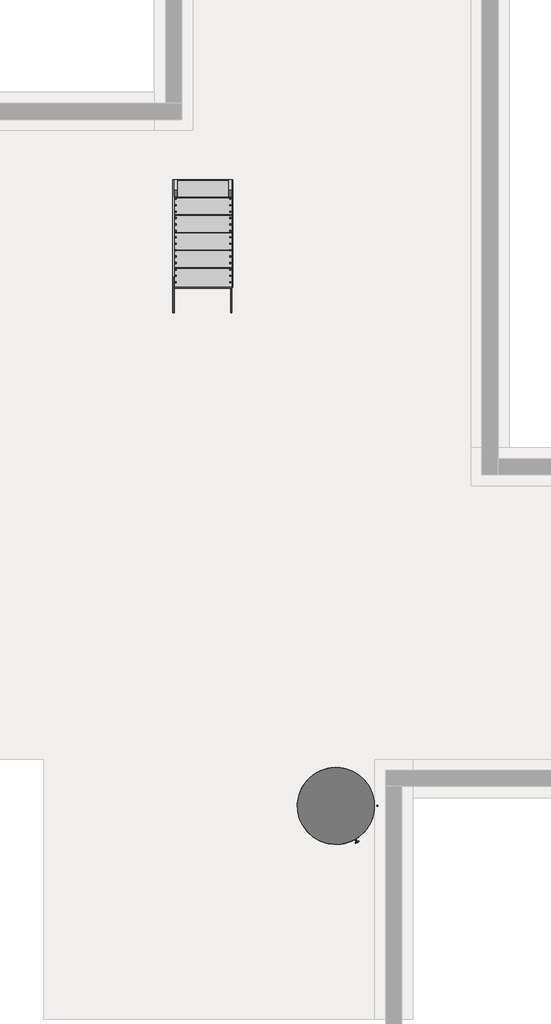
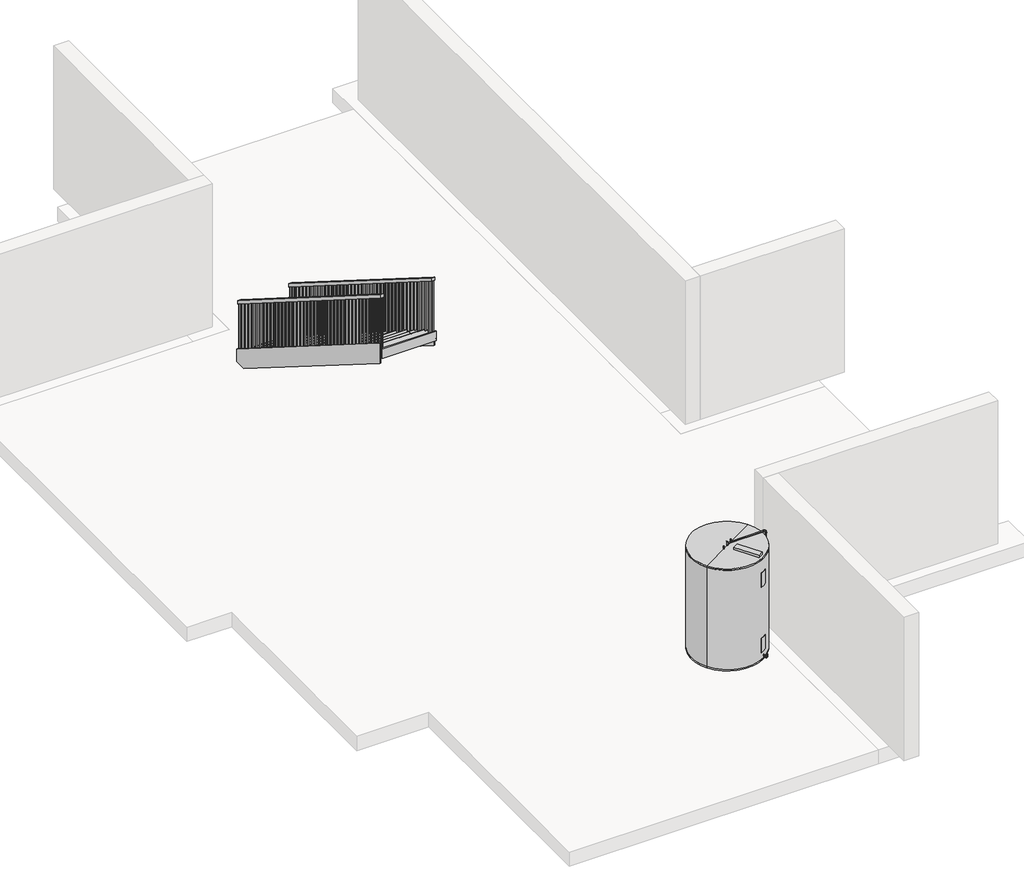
# One storey, part 2 of 2: 2 members, 2 railings, 1 flow terminal, 1 stair flight.
"""IFC4 building model written with IfcOpenShell, lengths in millimetres."""

from ifc_helpers import new_model, si_unit, frame, origin, place, context, project, spatial, polyline, outline, extrude, faceted_brep, transform, mapped, element, save
from components import electric_water_heater_7219_electric_water_heater_7219_9377e8ca, electric_water_heater_7219_electric_water_heater_7219_a7f30f03, stair_flight_b54795dc

model = new_model("IFC4")

# Units and contexts
model_context = context("Model", 3, world=origin())
ifc_project = project(units=[si_unit("LENGTHUNIT", "METRE", prefix="MILLI")], contexts=[model_context])

# Site, building, storey
site = spatial("IfcSite", under=ifc_project)
building = spatial("IfcBuilding", under=site)
storey = spatial("IfcBuildingStorey", under=building, Name="T.O. Footing", Elevation=-2819.4)

# Flow terminal
placement = place(None, origin())
electric_water_heater_7219_electric_water_heater_7219_shape = electric_water_heater_7219_electric_water_heater_7219_9377e8ca(model_context)
electric_water_heater_7219_electric_water_heater_7219_2_shape = electric_water_heater_7219_electric_water_heater_7219_a7f30f03(model_context)
element("IfcFlowTerminal", 1, ObjectType="Electric_Water_Heater_7219 : Electric_Water_Heater_7219", at=placement, inside=storey, context=model_context, shape_type="MappedRepresentation", body=[
    mapped(electric_water_heater_7219_electric_water_heater_7219_shape, transform((-3668.3047974, -7449.2176921, -2819.4), x_axis=(0.8632565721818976, 0.5047653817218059, 0.0), y_axis=(-0.5047653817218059, 0.8632565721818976, 0.0), z_axis=(0.0, 0.0, 1.0))),
    mapped(electric_water_heater_7219_electric_water_heater_7219_2_shape, transform((-3668.3047974, -7449.2176921, -2819.4), x_axis=(0.8632565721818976, 0.5047653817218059, 0.0), y_axis=(-0.5047653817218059, 0.8632565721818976, 0.0), z_axis=(0.0, 0.0, 1.0))),
])

# Members
element("IfcMember", 2, ObjectType="Carriage - Wood - 3/4\" Width 2 1/2\" Depth", at=placement, inside=storey, context=model_context, shape_type="Brep", body=[
    faceted_brep([(-5312.7730992, 2417.5422697, -2819.4), (-5312.7730992, 2258.2320327, -2819.4), (-5331.8230992, 2258.2320327, -2819.4), (-5331.8230992, 2417.5422697, -2819.4), (-5331.8230992, -1729.0077303, -304.7203767), (-5312.7730992, -1729.0077303, -304.7203767), (-5312.7730992, -1729.0077303, -201.6125), (-5331.8230992, -1729.0077303, -201.6125), (-5312.7730992, 2138.1422697, -2743.6615699), (-5312.7730992, 1858.7422697, -2567.4490699), (-5312.7730992, 1579.3422697, -2391.2365699), (-5312.7730992, 1299.9422697, -2215.0240699), (-5312.7730992, 1020.5422697, -2038.8115699), (-5312.7730992, 741.1422697, -1862.5990699), (-5312.7730992, 461.7422697, -1686.3865699), (-5312.7730992, 182.3422697, -1510.1740699), (-5312.7730992, -97.0577303, -1333.9615699), (-5312.7730992, -376.4577303, -1157.7490699), (-5312.7730992, -655.8577303, -981.5365699), (-5312.7730992, -935.2577303, -805.3240699), (-5312.7730992, -1214.6577303, -629.1115699), (-5312.7730992, -1494.0577303, -452.8990699), (-5312.7730992, 2417.5422697, -2668.5875), (-5312.7730992, 2138.1422697, -2668.5875), (-5312.7730992, 2138.1422697, -2492.375), (-5312.7730992, 1858.7422697, -2492.375), (-5312.7730992, 1858.7422697, -2316.1625), (-5312.7730992, 1579.3422697, -2316.1625), (-5312.7730992, 1579.3422697, -2139.95), (-5312.7730992, 1299.9422697, -2139.95), (-5312.7730992, 1299.9422697, -1963.7375), (-5312.7730992, 1020.5422697, -1963.7375), (-5312.7730992, 1020.5422697, -1787.525), (-5312.7730992, 741.1422697, -1787.525), (-5312.7730992, 741.1422697, -1611.3125), (-5312.7730992, 461.7422697, -1611.3125), (-5312.7730992, 461.7422697, -1435.1), (-5312.7730992, 182.3422697, -1435.1), (-5312.7730992, 182.3422697, -1258.8875), (-5312.7730992, -97.0577303, -1258.8875), (-5312.7730992, -97.0577303, -1082.675), (-5312.7730992, -376.4577303, -1082.675), (-5312.7730992, -376.4577303, -906.4625), (-5312.7730992, -655.8577303, -906.4625), (-5312.7730992, -655.8577303, -730.25), (-5312.7730992, -935.2577303, -730.25), (-5312.7730992, -935.2577303, -554.0375), (-5312.7730992, -1214.6577303, -554.0375), (-5312.7730992, -1214.6577303, -377.825), (-5312.7730992, -1494.0577303, -377.825), (-5312.7730992, -1494.0577303, -201.6125), (-5331.8230992, -1494.0577303, -201.6125), (-5331.8230992, -1494.0577303, -377.825), (-5331.8230992, -1214.6577303, -377.825), (-5331.8230992, -1214.6577303, -554.0375), (-5331.8230992, -935.2577303, -554.0375), (-5331.8230992, -935.2577303, -730.25), (-5331.8230992, -655.8577303, -730.25), (-5331.8230992, -655.8577303, -906.4625), (-5331.8230992, -376.4577303, -906.4625), (-5331.8230992, -376.4577303, -1082.675), (-5331.8230992, -97.0577303, -1082.675), (-5331.8230992, -97.0577303, -1258.8875), (-5331.8230992, 182.3422697, -1258.8875), (-5331.8230992, 182.3422697, -1435.1), (-5331.8230992, 461.7422697, -1435.1), (-5331.8230992, 461.7422697, -1611.3125), (-5331.8230992, 741.1422697, -1611.3125), (-5331.8230992, 741.1422697, -1787.525), (-5331.8230992, 1020.5422697, -1787.525), (-5331.8230992, 1020.5422697, -1963.7375), (-5331.8230992, 1299.9422697, -1963.7375), (-5331.8230992, 1299.9422697, -2139.95), (-5331.8230992, 1579.3422697, -2139.95), (-5331.8230992, 1579.3422697, -2316.1625), (-5331.8230992, 1858.7422697, -2316.1625), (-5331.8230992, 1858.7422697, -2492.375), (-5331.8230992, 2138.1422697, -2492.375), (-5331.8230992, 2138.1422697, -2668.5875), (-5331.8230992, 2417.5422697, -2668.5875)], [[[0, 1, 2, 3]], [[4, 5, 6, 7]], [[5, 4, 2, 1, 8, 9, 10, 11, 12, 13, 14, 15, 16, 17, 18, 19, 20, 21]], [[6, 5, 21, 20, 19, 18, 17, 16, 15, 14, 13, 12, 11, 10, 9, 8, 1, 0, 22, 23, 24, 25, 26, 27, 28, 29, 30, 31, 32, 33, 34, 35, 36, 37, 38, 39, 40, 41, 42, 43, 44, 45, 46, 47, 48, 49, 50]], [[50, 51, 7, 6]], [[4, 7, 51, 52, 53, 54, 55, 56, 57, 58, 59, 60, 61, 62, 63, 64, 65, 66, 67, 68, 69, 70, 71, 72, 73, 74, 75, 76, 77, 78, 79, 3, 2]], [[79, 22, 0, 3]], [[22, 79, 78, 23]], [[23, 78, 77, 24]], [[24, 77, 76, 25]], [[25, 76, 75, 26]], [[26, 75, 74, 27]], [[27, 74, 73, 28]], [[28, 73, 72, 29]], [[29, 72, 71, 30]], [[30, 71, 70, 31]], [[31, 70, 69, 32]], [[32, 69, 68, 33]], [[33, 68, 67, 34]], [[34, 67, 66, 35]], [[35, 66, 65, 36]], [[36, 65, 64, 37]], [[37, 64, 63, 38]], [[38, 63, 62, 39]], [[39, 62, 61, 40]], [[40, 61, 60, 41]], [[41, 60, 59, 42]], [[42, 59, 58, 43]], [[43, 58, 57, 44]], [[44, 57, 56, 45]], [[45, 56, 55, 46]], [[46, 55, 54, 47]], [[47, 54, 53, 48]], [[48, 53, 52, 49]], [[49, 52, 51, 50]]]),
])
element("IfcMember", 3, ObjectType="Stringer - Wood - 3/4\" Width 2 1/2 Depth", at=placement, inside=storey, context=model_context, shape_type="SweptSolid", body=[
    extrude(outline(polyline([(2461.9922697, -2587.5523413), (2461.9922697, -2819.4), (2258.2320327, -2819.4), (-1729.0077303, -304.7203767), (-1729.0077303, 55.6351587), (2461.9922697, -2587.5523413)])), frame((-6246.2230992, 0.0, 0.0), z_axis=(1.0, 0.0, 0.0), x_axis=(0.0, 1.0, 0.0)), (0.0, 0.0, 1.0), 19.05),
])

# Railings
element("IfcRailing", 4, ObjectType="Handrail - Rectangular", at=placement, inside=storey, context=model_context, shape_type="SweptSolid", body=[
    extrude(outline(polyline([(2461.9922697, -1728.7875), (2461.9922697, -1788.8467559), (-1729.0077303, 854.3407441), (-1729.0077303, 914.4), (2461.9922697, -1728.7875)])), frame((-6227.1730992, 0.0, 0.0), z_axis=(1.0, 0.0, 0.0), x_axis=(0.0, 1.0, 0.0)), (0.0, 0.0, 1.0), 50.8),
    extrude(outline(polyline([(-1713.1327303, 844.3286702), (-1694.0827303, 832.3141816), (-1694.0827303, -176.2125), (-1713.1327303, -176.2125), (-1713.1327303, 844.3286702)])), frame((-6211.2980992, 0.0, 0.0), z_axis=(1.0, 0.0, 0.0), x_axis=(0.0, 1.0, 0.0)), (0.0, 0.0, 1.0), 19.05),
    extrude(outline(polyline([(-1611.5327303, 780.2513975), (-1592.4827303, 768.2369089), (-1592.4827303, -176.2125), (-1611.5327303, -176.2125), (-1611.5327303, 780.2513975)])), frame((-6211.2980992, 0.0, 0.0), z_axis=(1.0, 0.0, 0.0), x_axis=(0.0, 1.0, 0.0)), (0.0, 0.0, 1.0), 19.05),
    extrude(outline(polyline([(-1509.9327303, 716.1741248), (-1490.8827303, 704.1596361), (-1490.8827303, -176.2125), (-1509.9327303, -176.2125), (-1509.9327303, 716.1741248)])), frame((-6211.2980992, 0.0, 0.0), z_axis=(1.0, 0.0, 0.0), x_axis=(0.0, 1.0, 0.0)), (0.0, 0.0, 1.0), 19.05),
    extrude(outline(polyline([(-1408.3327303, 652.096852), (-1389.2827303, 640.0823634), (-1389.2827303, -352.425), (-1408.3327303, -352.425), (-1408.3327303, 652.096852)])), frame((-6211.2980992, 0.0, 0.0), z_axis=(1.0, 0.0, 0.0), x_axis=(0.0, 1.0, 0.0)), (0.0, 0.0, 1.0), 19.05),
    extrude(outline(polyline([(-1306.7327303, 588.0195793), (-1287.6827303, 576.0050907), (-1287.6827303, -352.425), (-1306.7327303, -352.425), (-1306.7327303, 588.0195793)])), frame((-6211.2980992, 0.0, 0.0), z_axis=(1.0, 0.0, 0.0), x_axis=(0.0, 1.0, 0.0)), (0.0, 0.0, 1.0), 19.05),
    extrude(outline(polyline([(-1205.1327303, 523.9423066), (-1186.0827303, 511.927818), (-1186.0827303, -352.425), (-1205.1327303, -352.425), (-1205.1327303, 523.9423066)])), frame((-6211.2980992, 0.0, 0.0), z_axis=(1.0, 0.0, 0.0), x_axis=(0.0, 1.0, 0.0)), (0.0, 0.0, 1.0), 19.05),
    extrude(outline(polyline([(-1103.5327303, 459.8650339), (-1084.4827303, 447.8505452), (-1084.4827303, -528.6375), (-1103.5327303, -528.6375), (-1103.5327303, 459.8650339)])), frame((-6211.2980992, 0.0, 0.0), z_axis=(1.0, 0.0, 0.0), x_axis=(0.0, 1.0, 0.0)), (0.0, 0.0, 1.0), 19.05),
    extrude(outline(polyline([(-1001.9327303, 395.7877611), (-982.8827303, 383.7732725), (-982.8827303, -528.6375), (-1001.9327303, -528.6375), (-1001.9327303, 395.7877611)])), frame((-6211.2980992, 0.0, 0.0), z_axis=(1.0, 0.0, 0.0), x_axis=(0.0, 1.0, 0.0)), (0.0, 0.0, 1.0), 19.05),
    extrude(outline(polyline([(-900.3327303, 331.7104884), (-881.2827303, 319.6959998), (-881.2827303, -528.6375), (-900.3327303, -528.6375), (-900.3327303, 331.7104884)])), frame((-6211.2980992, 0.0, 0.0), z_axis=(1.0, 0.0, 0.0), x_axis=(0.0, 1.0, 0.0)), (0.0, 0.0, 1.0), 19.05),
    extrude(outline(polyline([(-798.7327303, 267.6332157), (-779.6827303, 255.618727), (-779.6827303, -704.85), (-798.7327303, -704.85), (-798.7327303, 267.6332157)])), frame((-6211.2980992, 0.0, 0.0), z_axis=(1.0, 0.0, 0.0), x_axis=(0.0, 1.0, 0.0)), (0.0, 0.0, 1.0), 19.05),
    extrude(outline(polyline([(-697.1327303, 203.555943), (-678.0827303, 191.5414543), (-678.0827303, -704.85), (-697.1327303, -704.85), (-697.1327303, 203.555943)])), frame((-6211.2980992, 0.0, 0.0), z_axis=(1.0, 0.0, 0.0), x_axis=(0.0, 1.0, 0.0)), (0.0, 0.0, 1.0), 19.05),
    extrude(outline(polyline([(-595.5327303, 139.4786702), (-576.4827303, 127.4641816), (-576.4827303, -881.0625), (-595.5327303, -881.0625), (-595.5327303, 139.4786702)])), frame((-6211.2980992, 0.0, 0.0), z_axis=(1.0, 0.0, 0.0), x_axis=(0.0, 1.0, 0.0)), (0.0, 0.0, 1.0), 19.05),
    extrude(outline(polyline([(-493.9327303, 75.4013975), (-474.8827303, 63.3869089), (-474.8827303, -881.0625), (-493.9327303, -881.0625), (-493.9327303, 75.4013975)])), frame((-6211.2980992, 0.0, 0.0), z_axis=(1.0, 0.0, 0.0), x_axis=(0.0, 1.0, 0.0)), (0.0, 0.0, 1.0), 19.05),
    extrude(outline(polyline([(-392.3327303, 11.3241248), (-373.2827303, -0.6903639), (-373.2827303, -881.0625), (-392.3327303, -881.0625), (-392.3327303, 11.3241248)])), frame((-6211.2980992, 0.0, 0.0), z_axis=(1.0, 0.0, 0.0), x_axis=(0.0, 1.0, 0.0)), (0.0, 0.0, 1.0), 19.05),
    extrude(outline(polyline([(-290.7327303, -52.753148), (-271.6827303, -64.7676366), (-271.6827303, -1057.275), (-290.7327303, -1057.275), (-290.7327303, -52.753148)])), frame((-6211.2980992, 0.0, 0.0), z_axis=(1.0, 0.0, 0.0), x_axis=(0.0, 1.0, 0.0)), (0.0, 0.0, 1.0), 19.05),
    extrude(outline(polyline([(-189.1327303, -116.8304207), (-170.0827303, -128.8449093), (-170.0827303, -1057.275), (-189.1327303, -1057.275), (-189.1327303, -116.8304207)])), frame((-6211.2980992, 0.0, 0.0), z_axis=(1.0, 0.0, 0.0), x_axis=(0.0, 1.0, 0.0)), (0.0, 0.0, 1.0), 19.05),
    extrude(outline(polyline([(-87.5327303, -180.9076934), (-68.4827303, -192.922182), (-68.4827303, -1057.275), (-87.5327303, -1057.275), (-87.5327303, -180.9076934)])), frame((-6211.2980992, 0.0, 0.0), z_axis=(1.0, 0.0, 0.0), x_axis=(0.0, 1.0, 0.0)), (0.0, 0.0, 1.0), 19.05),
    extrude(outline(polyline([(14.0672697, -244.9849661), (33.1172697, -256.9994548), (33.1172697, -1233.4875), (14.0672697, -1233.4875), (14.0672697, -244.9849661)])), frame((-6211.2980992, 0.0, 0.0), z_axis=(1.0, 0.0, 0.0), x_axis=(0.0, 1.0, 0.0)), (0.0, 0.0, 1.0), 19.05),
    extrude(outline(polyline([(115.6672697, -309.0622389), (134.7172697, -321.0767275), (134.7172697, -1233.4875), (115.6672697, -1233.4875), (115.6672697, -309.0622389)])), frame((-6211.2980992, 0.0, 0.0), z_axis=(1.0, 0.0, 0.0), x_axis=(0.0, 1.0, 0.0)), (0.0, 0.0, 1.0), 19.05),
    extrude(outline(polyline([(217.2672697, -373.1395116), (236.3172697, -385.1540002), (236.3172697, -1233.4875), (217.2672697, -1233.4875), (217.2672697, -373.1395116)])), frame((-6211.2980992, 0.0, 0.0), z_axis=(1.0, 0.0, 0.0), x_axis=(0.0, 1.0, 0.0)), (0.0, 0.0, 1.0), 19.05),
    extrude(outline(polyline([(318.8672697, -437.2167843), (337.9172697, -449.231273), (337.9172697, -1409.7), (318.8672697, -1409.7), (318.8672697, -437.2167843)])), frame((-6211.2980992, 0.0, 0.0), z_axis=(1.0, 0.0, 0.0), x_axis=(0.0, 1.0, 0.0)), (0.0, 0.0, 1.0), 19.05),
    extrude(outline(polyline([(420.4672697, -501.294057), (439.5172697, -513.3085457), (439.5172697, -1409.7), (420.4672697, -1409.7), (420.4672697, -501.294057)])), frame((-6211.2980992, 0.0, 0.0), z_axis=(1.0, 0.0, 0.0), x_axis=(0.0, 1.0, 0.0)), (0.0, 0.0, 1.0), 19.05),
    extrude(outline(polyline([(522.0672697, -565.3713298), (541.1172697, -577.3858184), (541.1172697, -1585.9125), (522.0672697, -1585.9125), (522.0672697, -565.3713298)])), frame((-6211.2980992, 0.0, 0.0), z_axis=(1.0, 0.0, 0.0), x_axis=(0.0, 1.0, 0.0)), (0.0, 0.0, 1.0), 19.05),
    extrude(outline(polyline([(623.6672697, -629.4486025), (642.7172697, -641.4630911), (642.7172697, -1585.9125), (623.6672697, -1585.9125), (623.6672697, -629.4486025)])), frame((-6211.2980992, 0.0, 0.0), z_axis=(1.0, 0.0, 0.0), x_axis=(0.0, 1.0, 0.0)), (0.0, 0.0, 1.0), 19.05),
    extrude(outline(polyline([(725.2672697, -693.5258752), (744.3172697, -705.5403639), (744.3172697, -1585.9125), (725.2672697, -1585.9125), (725.2672697, -693.5258752)])), frame((-6211.2980992, 0.0, 0.0), z_axis=(1.0, 0.0, 0.0), x_axis=(0.0, 1.0, 0.0)), (0.0, 0.0, 1.0), 19.05),
    extrude(outline(polyline([(826.8672697, -757.603148), (845.9172697, -769.6176366), (845.9172697, -1762.125), (826.8672697, -1762.125), (826.8672697, -757.603148)])), frame((-6211.2980992, 0.0, 0.0), z_axis=(1.0, 0.0, 0.0), x_axis=(0.0, 1.0, 0.0)), (0.0, 0.0, 1.0), 19.05),
    extrude(outline(polyline([(928.4672697, -821.6804207), (947.5172697, -833.6949093), (947.5172697, -1762.125), (928.4672697, -1762.125), (928.4672697, -821.6804207)])), frame((-6211.2980992, 0.0, 0.0), z_axis=(1.0, 0.0, 0.0), x_axis=(0.0, 1.0, 0.0)), (0.0, 0.0, 1.0), 19.05),
    extrude(outline(polyline([(1030.0672697, -885.7576934), (1049.1172697, -897.772182), (1049.1172697, -1762.125), (1030.0672697, -1762.125), (1030.0672697, -885.7576934)])), frame((-6211.2980992, 0.0, 0.0), z_axis=(1.0, 0.0, 0.0), x_axis=(0.0, 1.0, 0.0)), (0.0, 0.0, 1.0), 19.05),
    extrude(outline(polyline([(1131.6672697, -949.8349661), (1150.7172697, -961.8494548), (1150.7172697, -1938.3375), (1131.6672697, -1938.3375), (1131.6672697, -949.8349661)])), frame((-6211.2980992, 0.0, 0.0), z_axis=(1.0, 0.0, 0.0), x_axis=(0.0, 1.0, 0.0)), (0.0, 0.0, 1.0), 19.05),
    extrude(outline(polyline([(1233.2672697, -1013.9122389), (1252.3172697, -1025.9267275), (1252.3172697, -1938.3375), (1233.2672697, -1938.3375), (1233.2672697, -1013.9122389)])), frame((-6211.2980992, 0.0, 0.0), z_axis=(1.0, 0.0, 0.0), x_axis=(0.0, 1.0, 0.0)), (0.0, 0.0, 1.0), 19.05),
    extrude(outline(polyline([(1334.8672697, -1077.9895116), (1353.9172697, -1090.0040002), (1353.9172697, -1938.3375), (1334.8672697, -1938.3375), (1334.8672697, -1077.9895116)])), frame((-6211.2980992, 0.0, 0.0), z_axis=(1.0, 0.0, 0.0), x_axis=(0.0, 1.0, 0.0)), (0.0, 0.0, 1.0), 19.05),
    extrude(outline(polyline([(1436.4672697, -1142.0667843), (1455.5172697, -1154.081273), (1455.5172697, -2114.55), (1436.4672697, -2114.55), (1436.4672697, -1142.0667843)])), frame((-6211.2980992, 0.0, 0.0), z_axis=(1.0, 0.0, 0.0), x_axis=(0.0, 1.0, 0.0)), (0.0, 0.0, 1.0), 19.05),
    extrude(outline(polyline([(1538.0672697, -1206.144057), (1557.1172697, -1218.1585457), (1557.1172697, -2114.55), (1538.0672697, -2114.55), (1538.0672697, -1206.144057)])), frame((-6211.2980992, 0.0, 0.0), z_axis=(1.0, 0.0, 0.0), x_axis=(0.0, 1.0, 0.0)), (0.0, 0.0, 1.0), 19.05),
    extrude(outline(polyline([(1639.6672697, -1270.2213298), (1658.7172697, -1282.2358184), (1658.7172697, -2290.7625), (1639.6672697, -2290.7625), (1639.6672697, -1270.2213298)])), frame((-6211.2980992, 0.0, 0.0), z_axis=(1.0, 0.0, 0.0), x_axis=(0.0, 1.0, 0.0)), (0.0, 0.0, 1.0), 19.05),
    extrude(outline(polyline([(1741.2672697, -1334.2986025), (1760.3172697, -1346.3130911), (1760.3172697, -2290.7625), (1741.2672697, -2290.7625), (1741.2672697, -1334.2986025)])), frame((-6211.2980992, 0.0, 0.0), z_axis=(1.0, 0.0, 0.0), x_axis=(0.0, 1.0, 0.0)), (0.0, 0.0, 1.0), 19.05),
    extrude(outline(polyline([(1842.8672697, -1398.3758752), (1861.9172697, -1410.3903639), (1861.9172697, -2290.7625), (1842.8672697, -2290.7625), (1842.8672697, -1398.3758752)])), frame((-6211.2980992, 0.0, 0.0), z_axis=(1.0, 0.0, 0.0), x_axis=(0.0, 1.0, 0.0)), (0.0, 0.0, 1.0), 19.05),
    extrude(outline(polyline([(1944.4672697, -1462.453148), (1963.5172697, -1474.4676366), (1963.5172697, -2466.975), (1944.4672697, -2466.975), (1944.4672697, -1462.453148)])), frame((-6211.2980992, 0.0, 0.0), z_axis=(1.0, 0.0, 0.0), x_axis=(0.0, 1.0, 0.0)), (0.0, 0.0, 1.0), 19.05),
    extrude(outline(polyline([(2046.0672697, -1526.5304207), (2065.1172697, -1538.5449093), (2065.1172697, -2466.975), (2046.0672697, -2466.975), (2046.0672697, -1526.5304207)])), frame((-6211.2980992, 0.0, 0.0), z_axis=(1.0, 0.0, 0.0), x_axis=(0.0, 1.0, 0.0)), (0.0, 0.0, 1.0), 19.05),
    extrude(outline(polyline([(2147.6672697, -1590.6076934), (2166.7172697, -1602.622182), (2166.7172697, -2466.975), (2147.6672697, -2466.975), (2147.6672697, -1590.6076934)])), frame((-6211.2980992, 0.0, 0.0), z_axis=(1.0, 0.0, 0.0), x_axis=(0.0, 1.0, 0.0)), (0.0, 0.0, 1.0), 19.05),
    extrude(outline(polyline([(2249.2672697, -1654.6849661), (2268.3172697, -1666.6994548), (2268.3172697, -2643.1875), (2249.2672697, -2643.1875), (2249.2672697, -1654.6849661)])), frame((-6211.2980992, 0.0, 0.0), z_axis=(1.0, 0.0, 0.0), x_axis=(0.0, 1.0, 0.0)), (0.0, 0.0, 1.0), 19.05),
    extrude(outline(polyline([(2350.8672697, -1718.7622389), (2369.9172697, -1730.7767275), (2369.9172697, -2643.1875), (2350.8672697, -2643.1875), (2350.8672697, -1718.7622389)])), frame((-6211.2980992, 0.0, 0.0), z_axis=(1.0, 0.0, 0.0), x_axis=(0.0, 1.0, 0.0)), (0.0, 0.0, 1.0), 19.05),
    extrude(outline(polyline([(-1729.0077303, 854.3407441), (-1709.9577303, 842.3262555), (-1709.9577303, -176.2125), (-1729.0077303, -176.2125), (-1729.0077303, 854.3407441)])), frame((-6211.2980992, 0.0, 0.0), z_axis=(1.0, 0.0, 0.0), x_axis=(0.0, 1.0, 0.0)), (0.0, 0.0, 1.0), 19.05),
    extrude(outline(polyline([(2442.9422697, -1776.8322673), (2461.9922697, -1788.8467559), (2461.9922697, -2643.1875), (2442.9422697, -2643.1875), (2442.9422697, -1776.8322673)])), frame((-6211.2980992, 0.0, 0.0), z_axis=(1.0, 0.0, 0.0), x_axis=(0.0, 1.0, 0.0)), (0.0, 0.0, 1.0), 19.05),
])
element("IfcRailing", 5, ObjectType="Handrail - Rectangular", at=placement, inside=storey, context=model_context, shape_type="SweptSolid", body=[
    extrude(outline(polyline([(2461.9922697, -1728.7875), (2461.9922697, -1788.8467559), (-1729.0077303, 854.3407441), (-1729.0077303, 914.4), (2461.9922697, -1728.7875)])), frame((-5363.5730992, 0.0, 0.0), z_axis=(1.0, 0.0, 0.0), x_axis=(0.0, 1.0, 0.0)), (0.0, 0.0, 1.0), 50.8),
    extrude(outline(polyline([(-1694.0827303, 832.3141816), (-1694.0827303, -176.2125), (-1713.1327303, -176.2125), (-1713.1327303, 844.3286702), (-1694.0827303, 832.3141816)])), frame((-5347.6980992, 0.0, 0.0), z_axis=(1.0, 0.0, 0.0), x_axis=(0.0, 1.0, 0.0)), (0.0, 0.0, 1.0), 19.05),
    extrude(outline(polyline([(-1592.4827303, 768.2369089), (-1592.4827303, -176.2125), (-1611.5327303, -176.2125), (-1611.5327303, 780.2513975), (-1592.4827303, 768.2369089)])), frame((-5347.6980992, 0.0, 0.0), z_axis=(1.0, 0.0, 0.0), x_axis=(0.0, 1.0, 0.0)), (0.0, 0.0, 1.0), 19.05),
    extrude(outline(polyline([(-1490.8827303, 704.1596361), (-1490.8827303, -176.2125), (-1509.9327303, -176.2125), (-1509.9327303, 716.1741248), (-1490.8827303, 704.1596361)])), frame((-5347.6980992, 0.0, 0.0), z_axis=(1.0, 0.0, 0.0), x_axis=(0.0, 1.0, 0.0)), (0.0, 0.0, 1.0), 19.05),
    extrude(outline(polyline([(-1389.2827303, 640.0823634), (-1389.2827303, -352.425), (-1408.3327303, -352.425), (-1408.3327303, 652.096852), (-1389.2827303, 640.0823634)])), frame((-5347.6980992, 0.0, 0.0), z_axis=(1.0, 0.0, 0.0), x_axis=(0.0, 1.0, 0.0)), (0.0, 0.0, 1.0), 19.05),
    extrude(outline(polyline([(-1287.6827303, 576.0050907), (-1287.6827303, -352.425), (-1306.7327303, -352.425), (-1306.7327303, 588.0195793), (-1287.6827303, 576.0050907)])), frame((-5347.6980992, 0.0, 0.0), z_axis=(1.0, 0.0, 0.0), x_axis=(0.0, 1.0, 0.0)), (0.0, 0.0, 1.0), 19.05),
    extrude(outline(polyline([(-1186.0827303, 511.927818), (-1186.0827303, -352.425), (-1205.1327303, -352.425), (-1205.1327303, 523.9423066), (-1186.0827303, 511.927818)])), frame((-5347.6980992, 0.0, 0.0), z_axis=(1.0, 0.0, 0.0), x_axis=(0.0, 1.0, 0.0)), (0.0, 0.0, 1.0), 19.05),
    extrude(outline(polyline([(-1084.4827303, 447.8505452), (-1084.4827303, -528.6375), (-1103.5327303, -528.6375), (-1103.5327303, 459.8650339), (-1084.4827303, 447.8505452)])), frame((-5347.6980992, 0.0, 0.0), z_axis=(1.0, 0.0, 0.0), x_axis=(0.0, 1.0, 0.0)), (0.0, 0.0, 1.0), 19.05),
    extrude(outline(polyline([(-982.8827303, 383.7732725), (-982.8827303, -528.6375), (-1001.9327303, -528.6375), (-1001.9327303, 395.7877611), (-982.8827303, 383.7732725)])), frame((-5347.6980992, 0.0, 0.0), z_axis=(1.0, 0.0, 0.0), x_axis=(0.0, 1.0, 0.0)), (0.0, 0.0, 1.0), 19.05),
    extrude(outline(polyline([(-881.2827303, 319.6959998), (-881.2827303, -528.6375), (-900.3327303, -528.6375), (-900.3327303, 331.7104884), (-881.2827303, 319.6959998)])), frame((-5347.6980992, 0.0, 0.0), z_axis=(1.0, 0.0, 0.0), x_axis=(0.0, 1.0, 0.0)), (0.0, 0.0, 1.0), 19.05),
    extrude(outline(polyline([(-779.6827303, 255.618727), (-779.6827303, -704.85), (-798.7327303, -704.85), (-798.7327303, 267.6332157), (-779.6827303, 255.618727)])), frame((-5347.6980992, 0.0, 0.0), z_axis=(1.0, 0.0, 0.0), x_axis=(0.0, 1.0, 0.0)), (0.0, 0.0, 1.0), 19.05),
    extrude(outline(polyline([(-678.0827303, 191.5414543), (-678.0827303, -704.85), (-697.1327303, -704.85), (-697.1327303, 203.555943), (-678.0827303, 191.5414543)])), frame((-5347.6980992, 0.0, 0.0), z_axis=(1.0, 0.0, 0.0), x_axis=(0.0, 1.0, 0.0)), (0.0, 0.0, 1.0), 19.05),
    extrude(outline(polyline([(-576.4827303, 127.4641816), (-576.4827303, -881.0625), (-595.5327303, -881.0625), (-595.5327303, 139.4786702), (-576.4827303, 127.4641816)])), frame((-5347.6980992, 0.0, 0.0), z_axis=(1.0, 0.0, 0.0), x_axis=(0.0, 1.0, 0.0)), (0.0, 0.0, 1.0), 19.05),
    extrude(outline(polyline([(-474.8827303, 63.3869089), (-474.8827303, -881.0625), (-493.9327303, -881.0625), (-493.9327303, 75.4013975), (-474.8827303, 63.3869089)])), frame((-5347.6980992, 0.0, 0.0), z_axis=(1.0, 0.0, 0.0), x_axis=(0.0, 1.0, 0.0)), (0.0, 0.0, 1.0), 19.05),
    extrude(outline(polyline([(-373.2827303, -0.6903639), (-373.2827303, -881.0625), (-392.3327303, -881.0625), (-392.3327303, 11.3241248), (-373.2827303, -0.6903639)])), frame((-5347.6980992, 0.0, 0.0), z_axis=(1.0, 0.0, 0.0), x_axis=(0.0, 1.0, 0.0)), (0.0, 0.0, 1.0), 19.05),
    extrude(outline(polyline([(-271.6827303, -64.7676366), (-271.6827303, -1057.275), (-290.7327303, -1057.275), (-290.7327303, -52.753148), (-271.6827303, -64.7676366)])), frame((-5347.6980992, 0.0, 0.0), z_axis=(1.0, 0.0, 0.0), x_axis=(0.0, 1.0, 0.0)), (0.0, 0.0, 1.0), 19.05),
    extrude(outline(polyline([(-170.0827303, -128.8449093), (-170.0827303, -1057.275), (-189.1327303, -1057.275), (-189.1327303, -116.8304207), (-170.0827303, -128.8449093)])), frame((-5347.6980992, 0.0, 0.0), z_axis=(1.0, 0.0, 0.0), x_axis=(0.0, 1.0, 0.0)), (0.0, 0.0, 1.0), 19.05),
    extrude(outline(polyline([(-68.4827303, -192.922182), (-68.4827303, -1057.275), (-87.5327303, -1057.275), (-87.5327303, -180.9076934), (-68.4827303, -192.922182)])), frame((-5347.6980992, 0.0, 0.0), z_axis=(1.0, 0.0, 0.0), x_axis=(0.0, 1.0, 0.0)), (0.0, 0.0, 1.0), 19.05),
    extrude(outline(polyline([(33.1172697, -256.9994548), (33.1172697, -1233.4875), (14.0672697, -1233.4875), (14.0672697, -244.9849661), (33.1172697, -256.9994548)])), frame((-5347.6980992, 0.0, 0.0), z_axis=(1.0, 0.0, 0.0), x_axis=(0.0, 1.0, 0.0)), (0.0, 0.0, 1.0), 19.05),
    extrude(outline(polyline([(134.7172697, -321.0767275), (134.7172697, -1233.4875), (115.6672697, -1233.4875), (115.6672697, -309.0622389), (134.7172697, -321.0767275)])), frame((-5347.6980992, 0.0, 0.0), z_axis=(1.0, 0.0, 0.0), x_axis=(0.0, 1.0, 0.0)), (0.0, 0.0, 1.0), 19.05),
    extrude(outline(polyline([(236.3172697, -385.1540002), (236.3172697, -1233.4875), (217.2672697, -1233.4875), (217.2672697, -373.1395116), (236.3172697, -385.1540002)])), frame((-5347.6980992, 0.0, 0.0), z_axis=(1.0, 0.0, 0.0), x_axis=(0.0, 1.0, 0.0)), (0.0, 0.0, 1.0), 19.05),
    extrude(outline(polyline([(337.9172697, -449.231273), (337.9172697, -1409.7), (318.8672697, -1409.7), (318.8672697, -437.2167843), (337.9172697, -449.231273)])), frame((-5347.6980992, 0.0, 0.0), z_axis=(1.0, 0.0, 0.0), x_axis=(0.0, 1.0, 0.0)), (0.0, 0.0, 1.0), 19.05),
    extrude(outline(polyline([(439.5172697, -513.3085457), (439.5172697, -1409.7), (420.4672697, -1409.7), (420.4672697, -501.294057), (439.5172697, -513.3085457)])), frame((-5347.6980992, 0.0, 0.0), z_axis=(1.0, 0.0, 0.0), x_axis=(0.0, 1.0, 0.0)), (0.0, 0.0, 1.0), 19.05),
    extrude(outline(polyline([(541.1172697, -577.3858184), (541.1172697, -1585.9125), (522.0672697, -1585.9125), (522.0672697, -565.3713298), (541.1172697, -577.3858184)])), frame((-5347.6980992, 0.0, 0.0), z_axis=(1.0, 0.0, 0.0), x_axis=(0.0, 1.0, 0.0)), (0.0, 0.0, 1.0), 19.05),
    extrude(outline(polyline([(642.7172697, -641.4630911), (642.7172697, -1585.9125), (623.6672697, -1585.9125), (623.6672697, -629.4486025), (642.7172697, -641.4630911)])), frame((-5347.6980992, 0.0, 0.0), z_axis=(1.0, 0.0, 0.0), x_axis=(0.0, 1.0, 0.0)), (0.0, 0.0, 1.0), 19.05),
    extrude(outline(polyline([(744.3172697, -705.5403639), (744.3172697, -1585.9125), (725.2672697, -1585.9125), (725.2672697, -693.5258752), (744.3172697, -705.5403639)])), frame((-5347.6980992, 0.0, 0.0), z_axis=(1.0, 0.0, 0.0), x_axis=(0.0, 1.0, 0.0)), (0.0, 0.0, 1.0), 19.05),
    extrude(outline(polyline([(845.9172697, -769.6176366), (845.9172697, -1762.125), (826.8672697, -1762.125), (826.8672697, -757.603148), (845.9172697, -769.6176366)])), frame((-5347.6980992, 0.0, 0.0), z_axis=(1.0, 0.0, 0.0), x_axis=(0.0, 1.0, 0.0)), (0.0, 0.0, 1.0), 19.05),
    extrude(outline(polyline([(947.5172697, -833.6949093), (947.5172697, -1762.125), (928.4672697, -1762.125), (928.4672697, -821.6804207), (947.5172697, -833.6949093)])), frame((-5347.6980992, 0.0, 0.0), z_axis=(1.0, 0.0, 0.0), x_axis=(0.0, 1.0, 0.0)), (0.0, 0.0, 1.0), 19.05),
    extrude(outline(polyline([(1049.1172697, -897.772182), (1049.1172697, -1762.125), (1030.0672697, -1762.125), (1030.0672697, -885.7576934), (1049.1172697, -897.772182)])), frame((-5347.6980992, 0.0, 0.0), z_axis=(1.0, 0.0, 0.0), x_axis=(0.0, 1.0, 0.0)), (0.0, 0.0, 1.0), 19.05),
    extrude(outline(polyline([(1150.7172697, -961.8494548), (1150.7172697, -1938.3375), (1131.6672697, -1938.3375), (1131.6672697, -949.8349661), (1150.7172697, -961.8494548)])), frame((-5347.6980992, 0.0, 0.0), z_axis=(1.0, 0.0, 0.0), x_axis=(0.0, 1.0, 0.0)), (0.0, 0.0, 1.0), 19.05),
    extrude(outline(polyline([(1252.3172697, -1025.9267275), (1252.3172697, -1938.3375), (1233.2672697, -1938.3375), (1233.2672697, -1013.9122389), (1252.3172697, -1025.9267275)])), frame((-5347.6980992, 0.0, 0.0), z_axis=(1.0, 0.0, 0.0), x_axis=(0.0, 1.0, 0.0)), (0.0, 0.0, 1.0), 19.05),
    extrude(outline(polyline([(1353.9172697, -1090.0040002), (1353.9172697, -1938.3375), (1334.8672697, -1938.3375), (1334.8672697, -1077.9895116), (1353.9172697, -1090.0040002)])), frame((-5347.6980992, 0.0, 0.0), z_axis=(1.0, 0.0, 0.0), x_axis=(0.0, 1.0, 0.0)), (0.0, 0.0, 1.0), 19.05),
    extrude(outline(polyline([(1455.5172697, -1154.081273), (1455.5172697, -2114.55), (1436.4672697, -2114.55), (1436.4672697, -1142.0667843), (1455.5172697, -1154.081273)])), frame((-5347.6980992, 0.0, 0.0), z_axis=(1.0, 0.0, 0.0), x_axis=(0.0, 1.0, 0.0)), (0.0, 0.0, 1.0), 19.05),
    extrude(outline(polyline([(1557.1172697, -1218.1585457), (1557.1172697, -2114.55), (1538.0672697, -2114.55), (1538.0672697, -1206.144057), (1557.1172697, -1218.1585457)])), frame((-5347.6980992, 0.0, 0.0), z_axis=(1.0, 0.0, 0.0), x_axis=(0.0, 1.0, 0.0)), (0.0, 0.0, 1.0), 19.05),
    extrude(outline(polyline([(1658.7172697, -1282.2358184), (1658.7172697, -2290.7625), (1639.6672697, -2290.7625), (1639.6672697, -1270.2213298), (1658.7172697, -1282.2358184)])), frame((-5347.6980992, 0.0, 0.0), z_axis=(1.0, 0.0, 0.0), x_axis=(0.0, 1.0, 0.0)), (0.0, 0.0, 1.0), 19.05),
    extrude(outline(polyline([(1760.3172697, -1346.3130911), (1760.3172697, -2290.7625), (1741.2672697, -2290.7625), (1741.2672697, -1334.2986025), (1760.3172697, -1346.3130911)])), frame((-5347.6980992, 0.0, 0.0), z_axis=(1.0, 0.0, 0.0), x_axis=(0.0, 1.0, 0.0)), (0.0, 0.0, 1.0), 19.05),
    extrude(outline(polyline([(1861.9172697, -1410.3903639), (1861.9172697, -2290.7625), (1842.8672697, -2290.7625), (1842.8672697, -1398.3758752), (1861.9172697, -1410.3903639)])), frame((-5347.6980992, 0.0, 0.0), z_axis=(1.0, 0.0, 0.0), x_axis=(0.0, 1.0, 0.0)), (0.0, 0.0, 1.0), 19.05),
    extrude(outline(polyline([(1963.5172697, -1474.4676366), (1963.5172697, -2466.975), (1944.4672697, -2466.975), (1944.4672697, -1462.453148), (1963.5172697, -1474.4676366)])), frame((-5347.6980992, 0.0, 0.0), z_axis=(1.0, 0.0, 0.0), x_axis=(0.0, 1.0, 0.0)), (0.0, 0.0, 1.0), 19.05),
    extrude(outline(polyline([(2065.1172697, -1538.5449093), (2065.1172697, -2466.975), (2046.0672697, -2466.975), (2046.0672697, -1526.5304207), (2065.1172697, -1538.5449093)])), frame((-5347.6980992, 0.0, 0.0), z_axis=(1.0, 0.0, 0.0), x_axis=(0.0, 1.0, 0.0)), (0.0, 0.0, 1.0), 19.05),
    extrude(outline(polyline([(2166.7172697, -1602.622182), (2166.7172697, -2466.975), (2147.6672697, -2466.975), (2147.6672697, -1590.6076934), (2166.7172697, -1602.622182)])), frame((-5347.6980992, 0.0, 0.0), z_axis=(1.0, 0.0, 0.0), x_axis=(0.0, 1.0, 0.0)), (0.0, 0.0, 1.0), 19.05),
    extrude(outline(polyline([(2268.3172697, -1666.6994548), (2268.3172697, -2643.1875), (2249.2672697, -2643.1875), (2249.2672697, -1654.6849661), (2268.3172697, -1666.6994548)])), frame((-5347.6980992, 0.0, 0.0), z_axis=(1.0, 0.0, 0.0), x_axis=(0.0, 1.0, 0.0)), (0.0, 0.0, 1.0), 19.05),
    extrude(outline(polyline([(2369.9172697, -1730.7767275), (2369.9172697, -2643.1875), (2350.8672697, -2643.1875), (2350.8672697, -1718.7622389), (2369.9172697, -1730.7767275)])), frame((-5347.6980992, 0.0, 0.0), z_axis=(1.0, 0.0, 0.0), x_axis=(0.0, 1.0, 0.0)), (0.0, 0.0, 1.0), 19.05),
    extrude(outline(polyline([(-1709.9577303, 842.3262555), (-1709.9577303, -176.2125), (-1729.0077303, -176.2125), (-1729.0077303, 854.3407441), (-1709.9577303, 842.3262555)])), frame((-5347.6980992, 0.0, 0.0), z_axis=(1.0, 0.0, 0.0), x_axis=(0.0, 1.0, 0.0)), (0.0, 0.0, 1.0), 19.05),
    extrude(outline(polyline([(2461.9922697, -1788.8467559), (2461.9922697, -2643.1875), (2442.9422697, -2643.1875), (2442.9422697, -1776.8322673), (2461.9922697, -1788.8467559)])), frame((-5347.6980992, 0.0, 0.0), z_axis=(1.0, 0.0, 0.0), x_axis=(0.0, 1.0, 0.0)), (0.0, 0.0, 1.0), 19.05),
])

# Stair flight
stair_flight_shape = stair_flight_b54795dc(model_context)
element("IfcStairFlight", 6, ObjectType="Wood Steps with 1\" Front and Left Nosing", at=placement, inside=storey, context=model_context, shape_type="MappedRepresentation", body=[
    mapped(stair_flight_shape, transform((0.0, 0.0, 0.0), x_axis=(1.0, 0.0, 0.0), y_axis=(0.0, 1.0, 0.0), z_axis=(0.0, 0.0, 1.0))),
])

save(model, "model.ifc")
